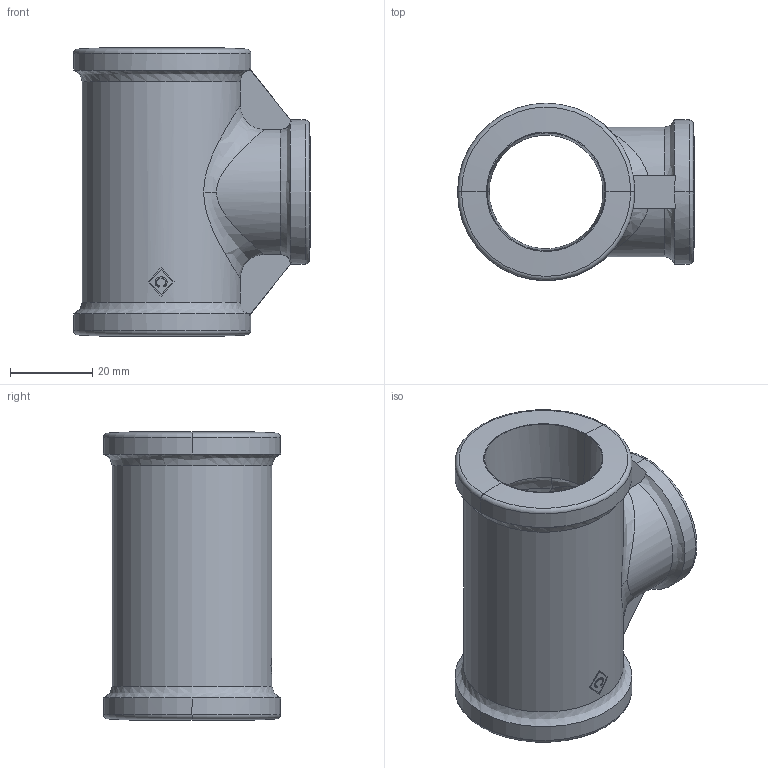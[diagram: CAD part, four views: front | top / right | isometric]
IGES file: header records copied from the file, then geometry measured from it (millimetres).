
Global section: file name: No Iges File Name specified; native system: AutoDesk Inventor R12.0; preprocessor: AutoDesk Inventor Iges Exporter R12.0; date: 20090916.120214; units: millimetre
Bounding box: 57.5 x 43 x 70 mm (x, y, z)
Volume: 42074.2 mm3; surface area: 20261.9 mm2
Topology: 1 solids, 1 shells, 76 faces, 196 edges, 124 vertices
Faces by surface type: bspline 24, plane 19, cylinder 12, revolution 9, cone 6, torus 6
